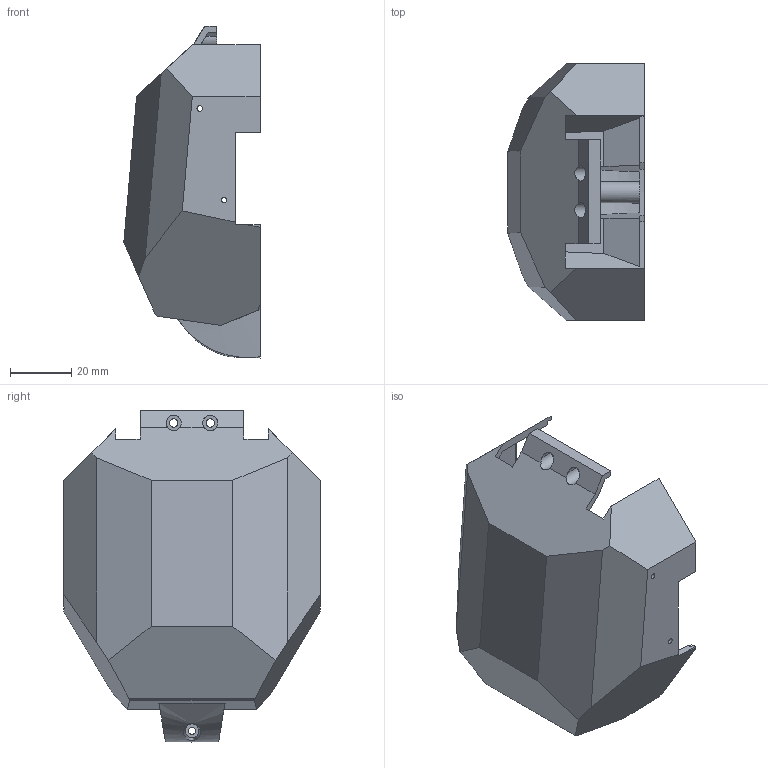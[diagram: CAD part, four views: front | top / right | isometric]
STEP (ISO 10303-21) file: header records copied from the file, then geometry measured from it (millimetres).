
FILE_DESCRIPTION((''),'2;1');
FILE_NAME('OP3_BACK_HEAD_CASE_VER1','2017-07-24T',('kimdolyang'),(''),'PRO/ENGINEER BY PARAMETRIC TECHNOLOGY CORPORATION, 2013410','PRO/ENGINEER BY PARAMETRIC TECHNOLOGY CORPORATION, 2013410','');
FILE_SCHEMA(('CONFIG_CONTROL_DESIGN'));
Length unit declared in the file: millimetre
Products named in the file (1): OP3_BACK_HEAD_CASE_VER1
Bounding box: 44.65 x 84 x 108.68 mm (x, y, z)
Volume: 29178.5 mm3; surface area: 30852.2 mm2
Topology: 1 solids, 1 shells, 124 faces, 361 edges, 240 vertices
Faces by surface type: plane 86, cylinder 27, bspline 8, extrusion 3
Entity records: 4680 total; most frequent: CARTESIAN_POINT 1431, ORIENTED_EDGE 722, DIRECTION 571, EDGE_CURVE 361, VECTOR 271, LINE 268, VERTEX_POINT 240, AXIS2_PLACEMENT_3D 150
